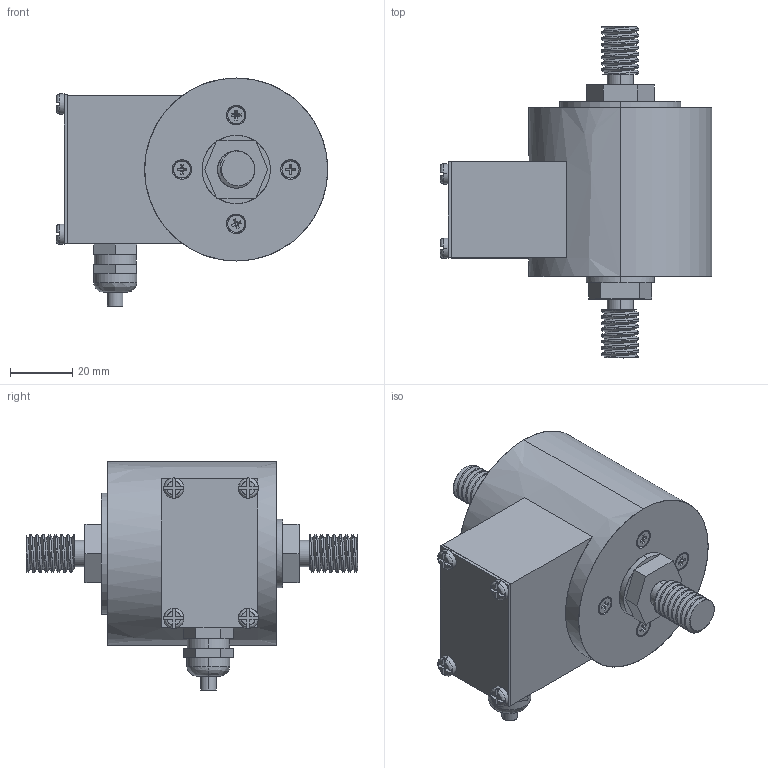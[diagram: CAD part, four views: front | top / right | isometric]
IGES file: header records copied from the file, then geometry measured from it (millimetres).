
Start section: SolidWorks IGES file using analytic representation for surfaces
Global section: file name: O:\16-Entwicklung\Projekte\03_Kraftsensoren\0222_KT1101\01_Mechanik & Gehäuse\01_Solid Works\01_Outline 3D files\KT1101_K_1KN.IGS; native system: SolidWorks 2012; preprocessor: SolidWorks 2012; author: AndreB; date: 140423.132820; units: metre
Bounding box: 87.5 x 107 x 73.5 mm (x, y, z)
Surface area: 25177.1 mm2 (no closed solid volume)
Topology: 0 solids, 0 shells, 264 faces, 4188 edges, 4188 vertices
Faces by surface type: bspline 186, revolution 78
